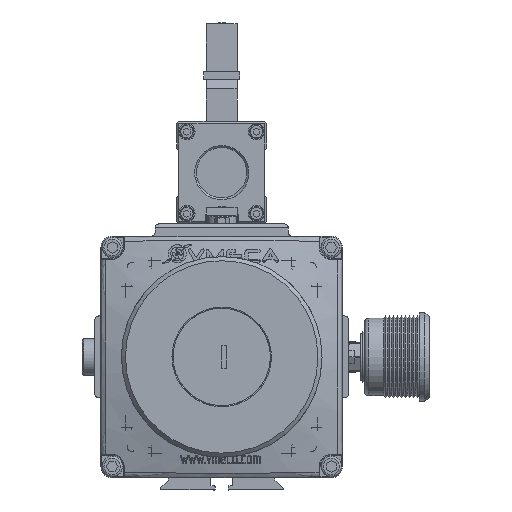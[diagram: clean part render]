
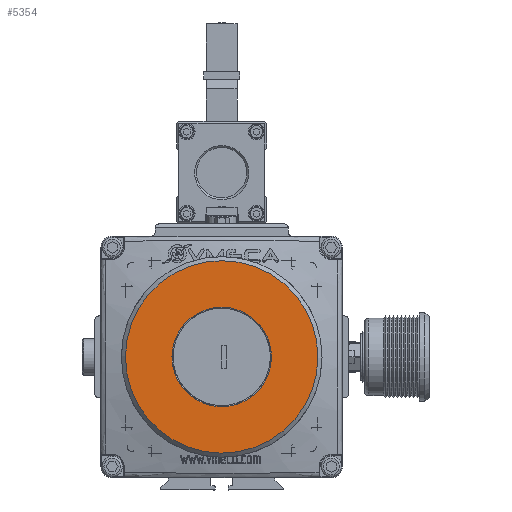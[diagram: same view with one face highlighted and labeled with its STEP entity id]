
A CAD part, left-side view. The second image highlights one B-rep face of the part: STEP entity #5354.
In plain terms, the highlighted planar face has unit normal (-1, 0, 0).
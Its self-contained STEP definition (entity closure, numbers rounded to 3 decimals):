
#5354 = ADVANCED_FACE( '', ( #11225, #11226 ), #11227, .F. );
#11225 = FACE_OUTER_BOUND( '', #19321, .T. );
#11226 = FACE_BOUND( '', #19322, .T. );
#11227 = PLANE( '', #19323 );
#19321 = EDGE_LOOP( '', ( #34724 ) );
#19322 = EDGE_LOOP( '', ( #34725 ) );
#19323 = AXIS2_PLACEMENT_3D( '', #34726, #34727, #34728 );
#34724 = ORIENTED_EDGE( '', *, *, #41498, .T. );
#34725 = ORIENTED_EDGE( '', *, *, #41788, .F. );
#34726 = CARTESIAN_POINT( '', ( -11., 0., 47. ) );
#34727 = DIRECTION( '', ( 1., 0., 0. ) );
#34728 = DIRECTION( '', ( 0., 1., 0. ) );
#41498 = EDGE_CURVE( '', #50346, #50346, #50347, .T. );
#41788 = EDGE_CURVE( '', #50707, #50707, #50708, .T. );
#50346 = VERTEX_POINT( '', #65929 );
#50347 = CIRCLE( '', #65930, 47. );
#50707 = VERTEX_POINT( '', #66819 );
#50708 = CIRCLE( '', #66820, 24.3 );
#65929 = CARTESIAN_POINT( '', ( -11., 0., 47. ) );
#65930 = AXIS2_PLACEMENT_3D( '', #73823, #73824, #73825 );
#66819 = CARTESIAN_POINT( '', ( -11., 0., 24.3 ) );
#66820 = AXIS2_PLACEMENT_3D( '', #74103, #74104, #74105 );
#73823 = CARTESIAN_POINT( '', ( -11., 0., 0. ) );
#73824 = DIRECTION( '', ( -1., 0., 0. ) );
#73825 = DIRECTION( '', ( 0., 0., 1. ) );
#74103 = CARTESIAN_POINT( '', ( -11., 0., 0. ) );
#74104 = DIRECTION( '', ( -1., 0., 0. ) );
#74105 = DIRECTION( '', ( 0., 0., 1. ) );
